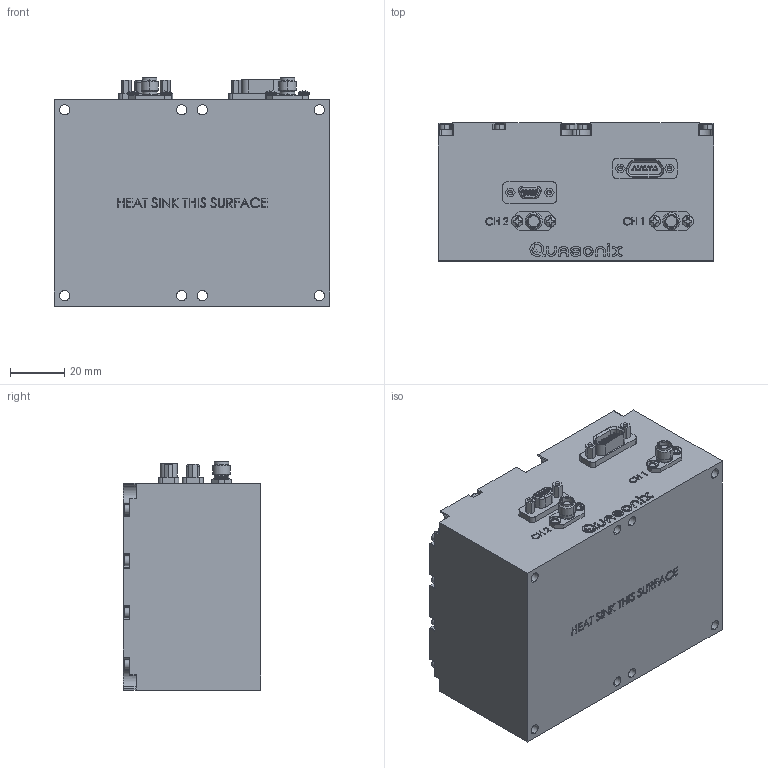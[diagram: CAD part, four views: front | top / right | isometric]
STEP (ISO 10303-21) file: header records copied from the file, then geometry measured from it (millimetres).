
FILE_DESCRIPTION (( 'STEP AP203' ), '1' );
FILE_NAME ('24AJ.STEP', '2020-05-11T20:28:07', ( '' ), ( '' ), 'SwSTEP 2.0', 'SolidWorks 2018', '' );
FILE_SCHEMA (( 'CONFIG_CONTROL_DESIGN' ));
Length unit declared in the file: metre
Products named in the file (1): 24AJ
Bounding box: 101.6 x 50.8 x 84.14 mm (x, y, z)
Volume: 388435.7 mm3; surface area: 42600.6 mm2
Topology: 34 solids, 34 shells, 1565 faces, 3736 edges, 2364 vertices
Faces by surface type: plane 754, cylinder 363, cone 255, bspline 193
Entity records: 52378 total; most frequent: CARTESIAN_POINT 17160, ORIENTED_EDGE 7472, DIRECTION 6807, EDGE_CURVE 3736, VERTEX_POINT 2364, AXIS2_PLACEMENT_3D 2353, VECTOR 2101, LINE 2101
